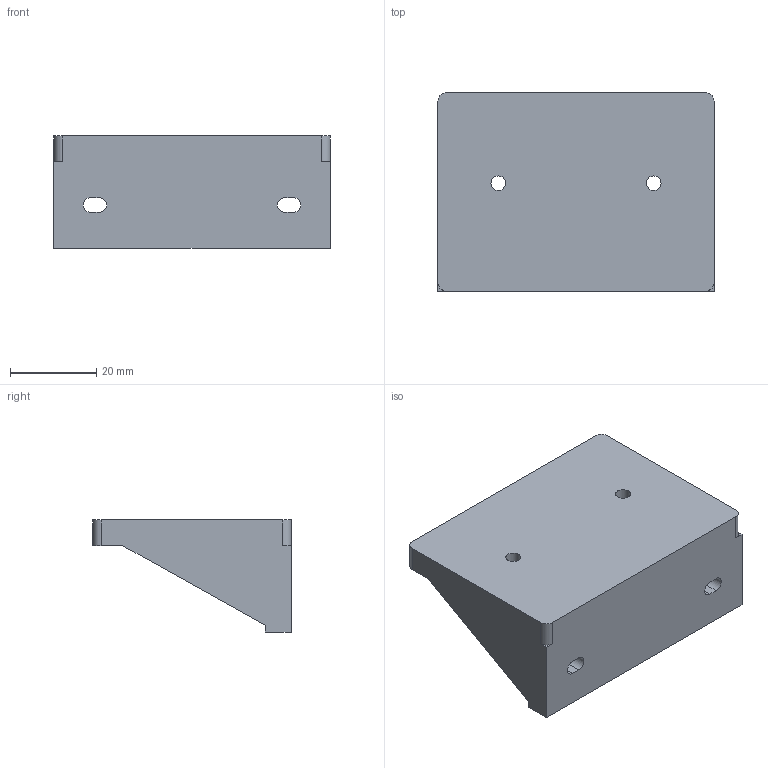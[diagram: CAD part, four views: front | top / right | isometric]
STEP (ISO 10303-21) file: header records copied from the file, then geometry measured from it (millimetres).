
FILE_DESCRIPTION(('Open CASCADE Model'),'2;1');
FILE_NAME('Open CASCADE Shape Model','2026-10-14T18:58:52',('Author'),( 'Open CASCADE'),'Open CASCADE STEP processor 7.8','Open CASCADE 7.8' ,'Unknown');
FILE_SCHEMA(('AUTOMOTIVE_DESIGN { 1 0 10303 214 1 1 1 1 }'));
Length unit declared in the file: millimetre
Products named in the file (1): Open CASCADE STEP translator 7.8 1
Bounding box: 64 x 46 x 26 mm (x, y, z)
Volume: 27458.1 mm3; surface area: 11296.5 mm2
Topology: 1 solids, 1 shells, 28 faces, 78 edges, 52 vertices
Faces by surface type: plane 18, cylinder 10
Full cylindrical faces by diameter (mm): 3.4 x2
Entity records: 1938 total; most frequent: CARTESIAN_POINT 391, DIRECTION 276, LINE 166, VECTOR 166, ORIENTED_EDGE 156, PCURVE 156, DEFINITIONAL_REPRESENTATION 156, EDGE_CURVE 78
